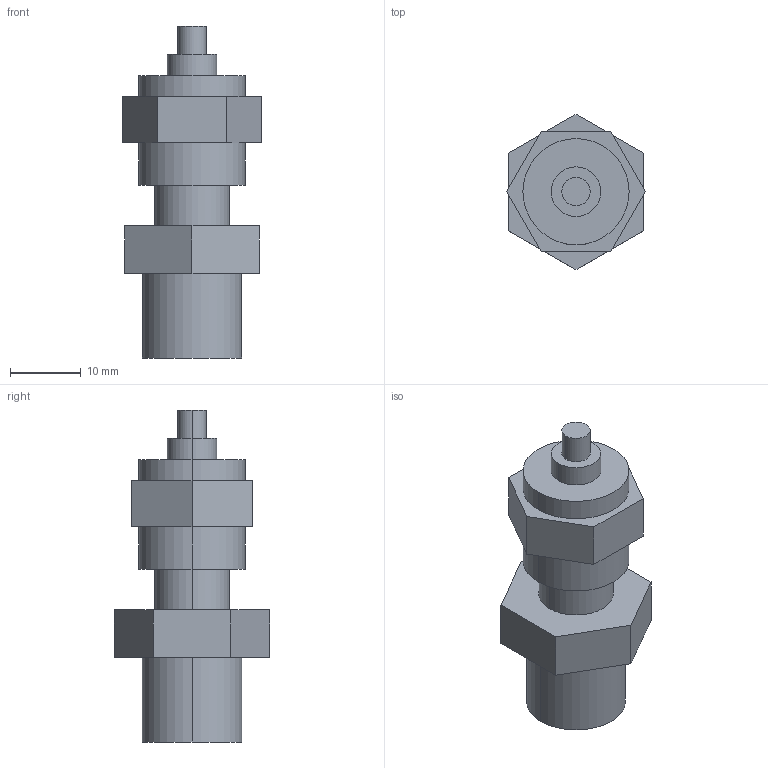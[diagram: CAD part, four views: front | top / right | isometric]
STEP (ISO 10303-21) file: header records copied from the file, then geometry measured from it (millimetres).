
FILE_DESCRIPTION (( 'STEP AP214' ), '1' );
FILE_NAME ('diyafaguanzui.STEP', '2023-04-17T11:42:18', ( '' ), ( '' ), 'SwSTEP 2.0', 'SolidWorks 2016', '' );
FILE_SCHEMA (( 'AUTOMOTIVE_DESIGN' ));
Length unit declared in the file: millimetre
Products named in the file (1): diyafaguanzui
Bounding box: 19.63 x 21.94 x 46.9 mm (x, y, z)
Volume: 7807.2 mm3; surface area: 3030.9 mm2
Topology: 1 solids, 1 shells, 33 faces, 72 edges, 48 vertices
Faces by surface type: plane 21, cylinder 12
Entity records: 944 total; most frequent: DIRECTION 164, CARTESIAN_POINT 154, ORIENTED_EDGE 144, EDGE_CURVE 72, AXIS2_PLACEMENT_3D 58, LINE 48, VERTEX_POINT 48, VECTOR 48
